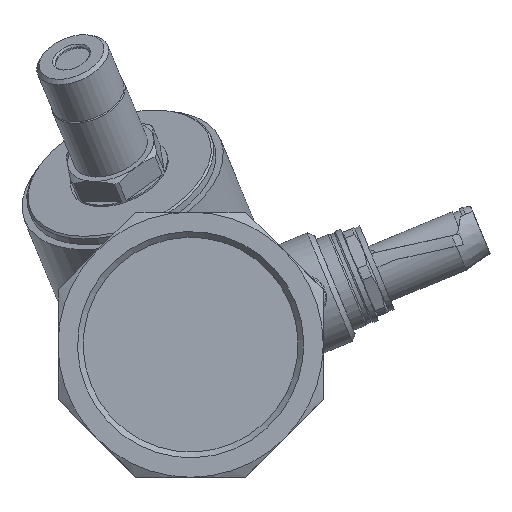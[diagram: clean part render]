
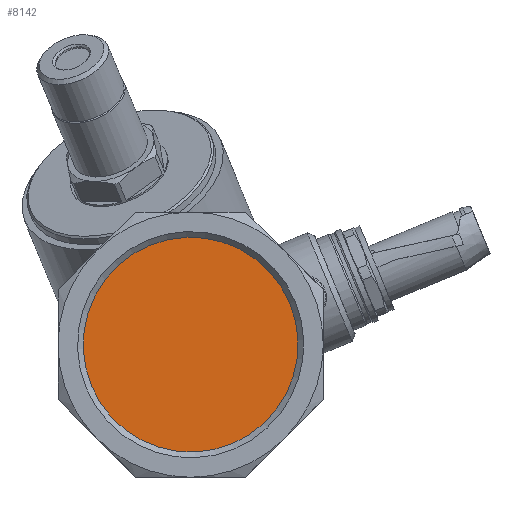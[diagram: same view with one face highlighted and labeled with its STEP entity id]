
A CAD part, left-side view. The second image highlights one B-rep face of the part: STEP entity #8142.
In plain terms, the highlighted planar face has unit normal (-1, 0, 0).
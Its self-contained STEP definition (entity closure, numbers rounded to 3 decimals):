
#394=PLANE('',#8782);
#862=FACE_OUTER_BOUND('',#1288,.T.);
#1288=EDGE_LOOP('',(#7434));
#1498=CIRCLE('',#8781,28.35);
#3788=VERTEX_POINT('',#16004);
#5004=EDGE_CURVE('',#3788,#3788,#1498,.T.);
#7434=ORIENTED_EDGE('',*,*,#5004,.F.);
#8142=ADVANCED_FACE('',(#862),#394,.F.);
#8781=AXIS2_PLACEMENT_3D('',#16006,#10343,#10344);
#8782=AXIS2_PLACEMENT_3D('',#16007,#10345,#10346);
#10343=DIRECTION('center_axis',(1.,0.,0.));
#10344=DIRECTION('ref_axis',(0.,-0.383,-0.924));
#10345=DIRECTION('center_axis',(1.,0.,0.));
#10346=DIRECTION('ref_axis',(0.,0.,-1.));
#16004=CARTESIAN_POINT('',(-76.5,10.849,26.192));
#16006=CARTESIAN_POINT('Origin',(-76.5,0.,0.));
#16007=CARTESIAN_POINT('Origin',(-76.5,0.,0.));
